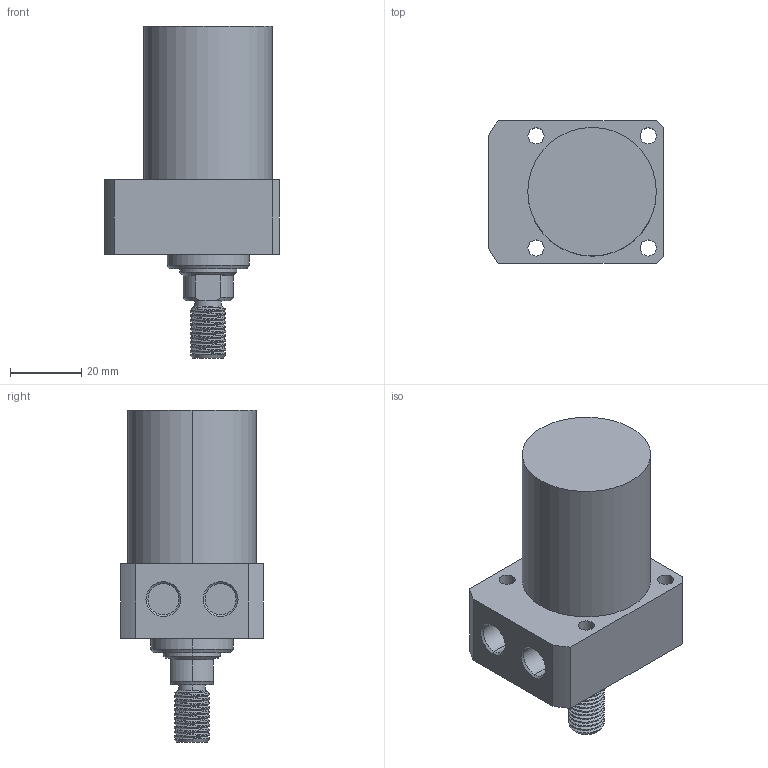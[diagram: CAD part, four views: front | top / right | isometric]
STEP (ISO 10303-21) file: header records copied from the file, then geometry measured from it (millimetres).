
FILE_DESCRIPTION (( 'STEP AP214' ), '1' );
FILE_NAME ('CLLR-036CT-035.STEP', '2020-01-08T10:20:36', ( 'Windows' ), ( 'Microsoft' ), 'SwSTEP 2.0', 'SolidWorks 2015', '' );
FILE_SCHEMA (( 'AUTOMOTIVE_DESIGN' ));
Length unit declared in the file: millimetre
Products named in the file (1): CLLR-036CT-035
Bounding box: 49 x 40 x 93 mm (x, y, z)
Volume: 85789 mm3; surface area: 15524.8 mm2
Topology: 1 solids, 1 shells, 89 faces, 223 edges, 144 vertices
Faces by surface type: cylinder 51, plane 21, cone 15, bspline 2
Entity records: 3962 total; most frequent: CARTESIAN_POINT 1828, ORIENTED_EDGE 446, DIRECTION 419, EDGE_CURVE 223, AXIS2_PLACEMENT_3D 164, VERTEX_POINT 144, EDGE_LOOP 105, LINE 91
